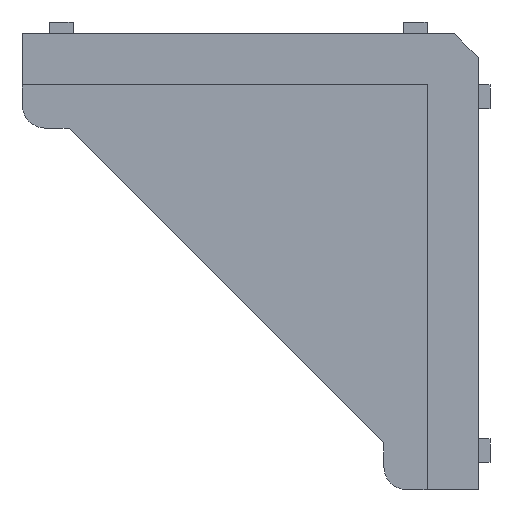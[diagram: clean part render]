
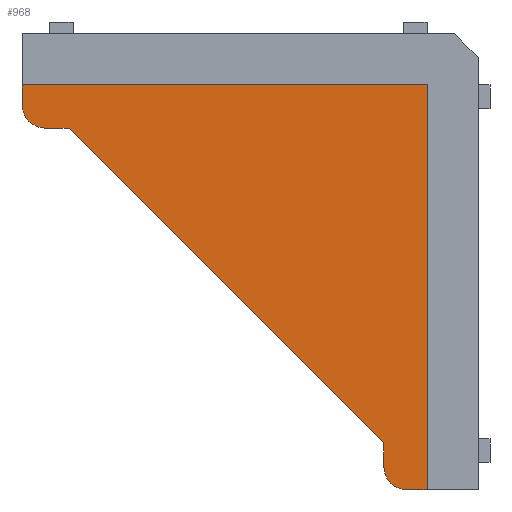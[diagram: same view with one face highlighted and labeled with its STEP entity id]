
A CAD part, left-side view. The second image highlights one B-rep face of the part: STEP entity #968.
In plain terms, the highlighted planar face has unit normal (-1, 0, 0).
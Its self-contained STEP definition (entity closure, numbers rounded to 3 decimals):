
#41 = ORIENTED_EDGE ( 'NONE', *, *, #2470, .T. ) ;
#58 = VERTEX_POINT ( 'NONE', #75 ) ;
#75 = CARTESIAN_POINT ( 'NONE',  ( -0.578, -20.408, -51.5 ) ) ;
#139 = VECTOR ( 'NONE', #1293, 1000. ) ;
#153 = DIRECTION ( 'NONE',  ( 0., 1., 0. ) ) ;
#191 = CARTESIAN_POINT ( 'NONE',  ( -0.578, 28.098, -5.49 ) ) ;
#199 = LINE ( 'NONE', #239, #2205 ) ;
#205 = AXIS2_PLACEMENT_3D ( 'NONE', #1642, #499, #1844 ) ;
#223 = LINE ( 'NONE', #1554, #2233 ) ;
#239 = CARTESIAN_POINT ( 'NONE',  ( -0.578, 31.098, -5.49 ) ) ;
#270 = VERTEX_POINT ( 'NONE', #1283 ) ;
#285 = LINE ( 'NONE', #2333, #1236 ) ;
#303 = CARTESIAN_POINT ( 'NONE',  ( -0.578, 0., 0. ) ) ;
#313 = CARTESIAN_POINT ( 'NONE',  ( -0.578, 31.098, 0. ) ) ;
#318 = VECTOR ( 'NONE', #153, 1000. ) ;
#373 = CARTESIAN_POINT ( 'NONE',  ( -0.578, -14.904, -45.493 ) ) ;
#391 = ORIENTED_EDGE ( 'NONE', *, *, #1619, .F. ) ;
#447 = VERTEX_POINT ( 'NONE', #1654 ) ;
#497 = DIRECTION ( 'NONE',  ( 0., 1., 0. ) ) ;
#499 = DIRECTION ( 'NONE',  ( -1., 0., 0. ) ) ;
#539 = VERTEX_POINT ( 'NONE', #2479 ) ;
#587 = LINE ( 'NONE', #1118, #646 ) ;
#602 = ORIENTED_EDGE ( 'NONE', *, *, #2286, .F. ) ;
#605 = VERTEX_POINT ( 'NONE', #373 ) ;
#646 = VECTOR ( 'NONE', #1304, 1000. ) ;
#670 = CARTESIAN_POINT ( 'NONE',  ( -0.578, 28.098, -2.49 ) ) ;
#674 = EDGE_CURVE ( 'NONE', #1016, #2512, #285, .T. ) ;
#677 = VECTOR ( 'NONE', #1563, 1000. ) ;
#689 = VERTEX_POINT ( 'NONE', #191 ) ;
#715 = CARTESIAN_POINT ( 'NONE',  ( -0.578, 31.098, -2.49 ) ) ;
#729 = CARTESIAN_POINT ( 'NONE',  ( -0.578, -14.904, -45.493 ) ) ;
#737 = LINE ( 'NONE', #2169, #677 ) ;
#763 = DIRECTION ( 'NONE',  ( 0., 0., 1. ) ) ;
#788 = FACE_OUTER_BOUND ( 'NONE', #1782, .T. ) ;
#862 = DIRECTION ( 'NONE',  ( 0., 1., 0. ) ) ;
#871 = ORIENTED_EDGE ( 'NONE', *, *, #674, .F. ) ;
#940 = ORIENTED_EDGE ( 'NONE', *, *, #1340, .T. ) ;
#968 = ADVANCED_FACE ( 'NONE', ( #788 ), #1437, .F. ) ;
#1016 = VERTEX_POINT ( 'NONE', #715 ) ;
#1110 = EDGE_CURVE ( 'NONE', #58, #1771, #2378, .T. ) ;
#1118 = CARTESIAN_POINT ( 'NONE',  ( -0.578, 31.098, 0. ) ) ;
#1236 = VECTOR ( 'NONE', #763, 1000. ) ;
#1283 = CARTESIAN_POINT ( 'NONE',  ( -0.578, -20.408, 0. ) ) ;
#1293 = DIRECTION ( 'NONE',  ( 0., 0.707, 0.707 ) ) ;
#1304 = DIRECTION ( 'NONE',  ( 0., -1., 0. ) ) ;
#1334 = ORIENTED_EDGE ( 'NONE', *, *, #1110, .F. ) ;
#1340 = EDGE_CURVE ( 'NONE', #1016, #689, #2348, .T. ) ;
#1437 = PLANE ( 'NONE',  #1564 ) ;
#1465 = ORIENTED_EDGE ( 'NONE', *, *, #2061, .F. ) ;
#1554 = CARTESIAN_POINT ( 'NONE',  ( -0.578, -20.408, 0. ) ) ;
#1563 = DIRECTION ( 'NONE',  ( 0., 0., 1. ) ) ;
#1564 = AXIS2_PLACEMENT_3D ( 'NONE', #303, #1640, #497 ) ;
#1619 = EDGE_CURVE ( 'NONE', #539, #689, #199, .T. ) ;
#1640 = DIRECTION ( 'NONE',  ( 1., 0., 0. ) ) ;
#1642 = CARTESIAN_POINT ( 'NONE',  ( -0.578, -17.904, -48.5 ) ) ;
#1654 = CARTESIAN_POINT ( 'NONE',  ( -0.578, -14.904, -48.5 ) ) ;
#1704 = ORIENTED_EDGE ( 'NONE', *, *, #2221, .F. ) ;
#1771 = VERTEX_POINT ( 'NONE', #1827 ) ;
#1782 = EDGE_LOOP ( 'NONE', ( #602, #41, #1334, #1704, #2001, #871, #940, #391, #1465 ) ) ;
#1827 = CARTESIAN_POINT ( 'NONE',  ( -0.578, -17.904, -51.5 ) ) ;
#1844 = DIRECTION ( 'NONE',  ( 0., 1., 0. ) ) ;
#1888 = CARTESIAN_POINT ( 'NONE',  ( -0.578, -20.408, -51.5 ) ) ;
#2001 = ORIENTED_EDGE ( 'NONE', *, *, #2105, .F. ) ;
#2029 = DIRECTION ( 'NONE',  ( -1., 0., 0. ) ) ;
#2061 = EDGE_CURVE ( 'NONE', #605, #539, #2199, .T. ) ;
#2105 = EDGE_CURVE ( 'NONE', #2512, #270, #587, .T. ) ;
#2160 = DIRECTION ( 'NONE',  ( 0., 0., -1. ) ) ;
#2169 = CARTESIAN_POINT ( 'NONE',  ( -0.578, -14.904, -51.5 ) ) ;
#2182 = DIRECTION ( 'NONE',  ( 0., 1., 0. ) ) ;
#2199 = LINE ( 'NONE', #729, #139 ) ;
#2205 = VECTOR ( 'NONE', #2182, 1000. ) ;
#2221 = EDGE_CURVE ( 'NONE', #270, #58, #223, .T. ) ;
#2233 = VECTOR ( 'NONE', #2160, 1000. ) ;
#2286 = EDGE_CURVE ( 'NONE', #447, #605, #737, .T. ) ;
#2326 = AXIS2_PLACEMENT_3D ( 'NONE', #670, #2029, #862 ) ;
#2333 = CARTESIAN_POINT ( 'NONE',  ( -0.578, 31.098, 0. ) ) ;
#2348 = CIRCLE ( 'NONE', #2326, 3. ) ;
#2352 = CIRCLE ( 'NONE', #205, 3. ) ;
#2378 = LINE ( 'NONE', #1888, #318 ) ;
#2470 = EDGE_CURVE ( 'NONE', #447, #1771, #2352, .T. ) ;
#2479 = CARTESIAN_POINT ( 'NONE',  ( -0.578, 25.105, -5.49 ) ) ;
#2512 = VERTEX_POINT ( 'NONE', #313 ) ;
